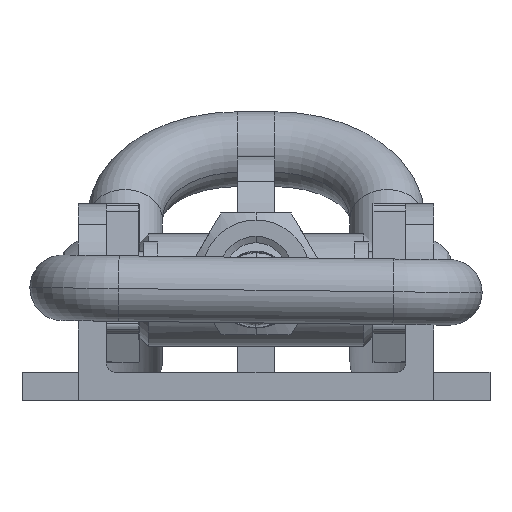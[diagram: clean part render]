
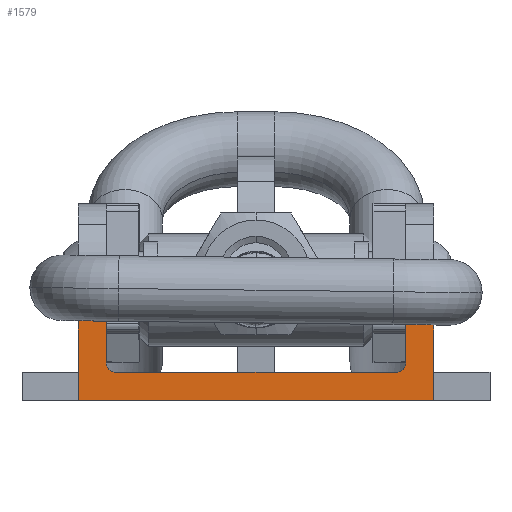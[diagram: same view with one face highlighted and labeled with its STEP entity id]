
A CAD part, left-side view. The second image highlights one B-rep face of the part: STEP entity #1579.
In plain terms, the highlighted planar face has unit normal (-1, 0, 0).
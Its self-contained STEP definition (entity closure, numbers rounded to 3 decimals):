
#739=CARTESIAN_POINT('',(-35.5,15.707,1.793));
#740=VERTEX_POINT('',#739);
#756=CARTESIAN_POINT('',(-35.5,16.,2.5));
#757=VERTEX_POINT('',#756);
#764=CARTESIAN_POINT('',(-35.5,15.,2.5));
#765=DIRECTION('',(-1.,0.0,0.0));
#766=DIRECTION('',(0.0,0.707,-0.707));
#767=AXIS2_PLACEMENT_3D('',#764,#765,#766);
#768=CIRCLE('',#767,1.);
#769=EDGE_CURVE('',#757,#740,#768,.T.);
#779=CARTESIAN_POINT('',(-35.5,-15.707,1.793));
#780=VERTEX_POINT('',#779);
#789=CARTESIAN_POINT('',(-35.5,-16.,2.5));
#790=VERTEX_POINT('',#789);
#791=CARTESIAN_POINT('',(-35.5,-15.,2.5));
#792=DIRECTION('',(-1.,0.0,0.0));
#793=DIRECTION('',(0.0,-0.707,-0.707));
#794=AXIS2_PLACEMENT_3D('',#791,#792,#793);
#795=CIRCLE('',#794,1.);
#796=EDGE_CURVE('',#780,#790,#795,.T.);
#831=CARTESIAN_POINT('',(-35.5,-15.,1.5));
#832=VERTEX_POINT('',#831);
#839=CARTESIAN_POINT('',(-35.5,-15.,2.5));
#840=DIRECTION('',(-1.,0.0,0.0));
#841=DIRECTION('',(0.0,-0.707,-0.707));
#842=AXIS2_PLACEMENT_3D('',#839,#840,#841);
#843=CIRCLE('',#842,1.);
#844=EDGE_CURVE('',#832,#780,#843,.T.);
#947=CARTESIAN_POINT('',(-35.5,15.,1.5));
#948=VERTEX_POINT('',#947);
#955=CARTESIAN_POINT('',(-35.5,-15.,1.5));
#956=DIRECTION('',(0.0,1.0,0.0));
#957=VECTOR('',#956,30.);
#958=LINE('',#955,#957);
#959=EDGE_CURVE('',#832,#948,#958,.T.);
#1044=CARTESIAN_POINT('',(-35.5,15.,2.5));
#1045=DIRECTION('',(-1.,0.0,0.0));
#1046=DIRECTION('',(0.0,0.707,-0.707));
#1047=AXIS2_PLACEMENT_3D('',#1044,#1045,#1046);
#1048=CIRCLE('',#1047,1.);
#1049=EDGE_CURVE('',#740,#948,#1048,.T.);
#1091=CARTESIAN_POINT('',(-35.5,16.,12.0));
#1092=VERTEX_POINT('',#1091);
#1100=CARTESIAN_POINT('',(-35.5,16.,2.5));
#1101=DIRECTION('',(0.0,0.0,1.0));
#1102=VECTOR('',#1101,9.5);
#1103=LINE('',#1100,#1102);
#1104=EDGE_CURVE('',#757,#1092,#1103,.T.);
#1477=CARTESIAN_POINT('',(-35.5,-16.,12.0));
#1478=VERTEX_POINT('',#1477);
#1479=CARTESIAN_POINT('',(-35.5,-16.,2.5));
#1480=DIRECTION('',(0.0,0.0,1.0));
#1481=VECTOR('',#1480,9.5);
#1482=LINE('',#1479,#1481);
#1483=EDGE_CURVE('',#790,#1478,#1482,.T.);
#1516=CARTESIAN_POINT('',(-35.5,-19.,12.0));
#1517=VERTEX_POINT('',#1516);
#1518=CARTESIAN_POINT('',(-35.5,-16.,12.0));
#1519=DIRECTION('',(0.0,-1.0,0.0));
#1520=VECTOR('',#1519,3.0);
#1521=LINE('',#1518,#1520);
#1522=EDGE_CURVE('',#1478,#1517,#1521,.T.);
#1534=CARTESIAN_POINT('',(-35.5,-19.,-1.5));
#1535=DIRECTION('',(-1.0,0.0,0.0));
#1536=DIRECTION('',(0.0,0.0,1.0));
#1537=AXIS2_PLACEMENT_3D('',#1534,#1535,#1536);
#1538=PLANE('',#1537);
#1539=ORIENTED_EDGE('',*,*,#1522,.F.);
#1540=ORIENTED_EDGE('',*,*,#1483,.F.);
#1541=ORIENTED_EDGE('',*,*,#796,.F.);
#1542=ORIENTED_EDGE('',*,*,#844,.F.);
#1543=ORIENTED_EDGE('',*,*,#959,.T.);
#1544=ORIENTED_EDGE('',*,*,#1049,.F.);
#1545=ORIENTED_EDGE('',*,*,#769,.F.);
#1546=ORIENTED_EDGE('',*,*,#1104,.T.);
#1547=CARTESIAN_POINT('',(-35.5,19.,12.0));
#1548=VERTEX_POINT('',#1547);
#1549=CARTESIAN_POINT('',(-35.5,19.,12.0));
#1550=DIRECTION('',(0.0,-1.0,0.0));
#1551=VECTOR('',#1550,3.);
#1552=LINE('',#1549,#1551);
#1553=EDGE_CURVE('',#1548,#1092,#1552,.T.);
#1554=ORIENTED_EDGE('',*,*,#1553,.F.);
#1555=CARTESIAN_POINT('',(-35.5,19.,-1.5));
#1556=VERTEX_POINT('',#1555);
#1557=CARTESIAN_POINT('',(-35.5,19.,-1.5));
#1558=DIRECTION('',(0.0,0.0,1.0));
#1559=VECTOR('',#1558,13.5);
#1560=LINE('',#1557,#1559);
#1561=EDGE_CURVE('',#1556,#1548,#1560,.T.);
#1562=ORIENTED_EDGE('',*,*,#1561,.F.);
#1563=CARTESIAN_POINT('',(-35.5,-19.,-1.5));
#1564=VERTEX_POINT('',#1563);
#1565=CARTESIAN_POINT('',(-35.5,19.,-1.5));
#1566=DIRECTION('',(0.0,-1.0,0.0));
#1567=VECTOR('',#1566,38.0);
#1568=LINE('',#1565,#1567);
#1569=EDGE_CURVE('',#1556,#1564,#1568,.T.);
#1570=ORIENTED_EDGE('',*,*,#1569,.T.);
#1571=CARTESIAN_POINT('',(-35.5,-19.,-1.5));
#1572=DIRECTION('',(0.0,0.0,1.0));
#1573=VECTOR('',#1572,13.5);
#1574=LINE('',#1571,#1573);
#1575=EDGE_CURVE('',#1564,#1517,#1574,.T.);
#1576=ORIENTED_EDGE('',*,*,#1575,.T.);
#1577=EDGE_LOOP('',(#1539,#1540,#1541,#1542,#1543,#1544,#1545,#1546,#1554,#1562,#1570,#1576));
#1578=FACE_OUTER_BOUND('',#1577,.T.);
#1579=ADVANCED_FACE('',(#1578),#1538,.T.);
